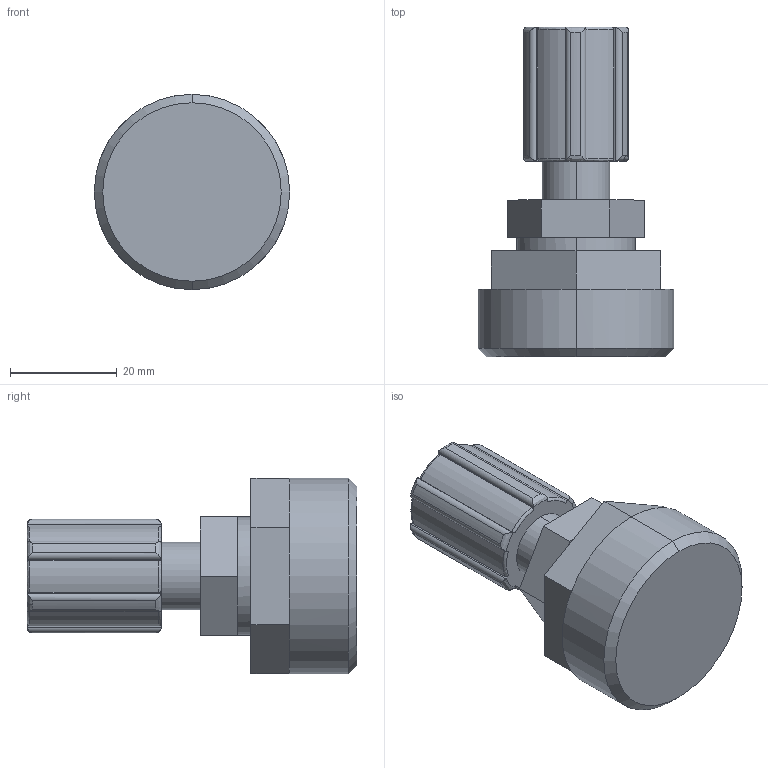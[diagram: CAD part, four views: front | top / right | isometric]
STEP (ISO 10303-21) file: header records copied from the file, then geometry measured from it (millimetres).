
FILE_DESCRIPTION (( 'STEP AP214' ), '1' );
FILE_NAME ('04-flaretek-with-top-mount-adapter.STEP', '2012-11-27T22:26:28', ( '' ), ( '' ), 'SwSTEP 2.0', 'SolidWorks 2012', '' );
FILE_SCHEMA (( 'AUTOMOTIVE_DESIGN' ));
Length unit declared in the file: inch
Products named in the file (1): 04-flaretek-with-top-mount-adapter
Bounding box: 36.6 x 61.75 x 36.66 mm (x, y, z)
Volume: 31978.9 mm3; surface area: 7486.7 mm2
Topology: 1 solids, 1 shells, 111 faces, 299 edges, 194 vertices
Faces by surface type: plane 48, cylinder 35, bspline 26, cone 2
Entity records: 4871 total; most frequent: CARTESIAN_POINT 2010, ORIENTED_EDGE 598, DIRECTION 427, EDGE_CURVE 299, VERTEX_POINT 194, AXIS2_PLACEMENT_3D 150, LINE 127, VECTOR 127
